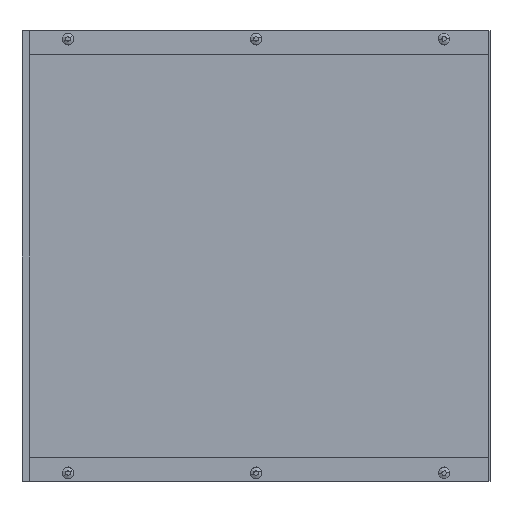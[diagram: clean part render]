
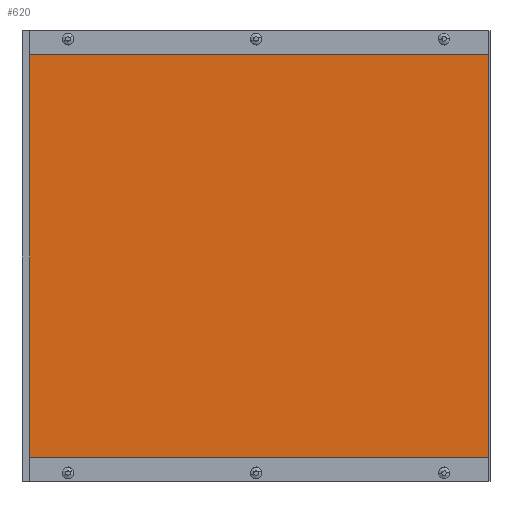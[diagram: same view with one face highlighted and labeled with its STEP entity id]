
A CAD part, front view. The second image highlights one B-rep face of the part: STEP entity #620.
In plain terms, the highlighted planar face has unit normal (0, -1, 0).
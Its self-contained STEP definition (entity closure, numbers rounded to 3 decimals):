
#74 = VERTEX_POINT ( 'NONE', #4194 ) ;
#154 = ORIENTED_EDGE ( 'NONE', *, *, #4608, .F. ) ;
#279 = VERTEX_POINT ( 'NONE', #2432 ) ;
#495 = VERTEX_POINT ( 'NONE', #3776 ) ;
#591 = DIRECTION ( 'NONE',  ( 0., 1., 0. ) ) ;
#620 = ADVANCED_FACE ( 'NONE', ( #2406 ), #4213, .F. ) ;
#648 = DIRECTION ( 'NONE',  ( 0., 0., 1. ) ) ;
#785 = DIRECTION ( 'NONE',  ( 0., 0., -1. ) ) ;
#875 = VERTEX_POINT ( 'NONE', #3822 ) ;
#894 = DIRECTION ( 'NONE',  ( 0., 0., 1. ) ) ;
#1051 = CARTESIAN_POINT ( 'NONE',  ( -8., 61.1, 454. ) ) ;
#1174 = EDGE_LOOP ( 'NONE', ( #1991, #4489, #1201, #154 ) ) ;
#1201 = ORIENTED_EDGE ( 'NONE', *, *, #2299, .T. ) ;
#1360 = DIRECTION ( 'NONE',  ( -1., 0., 0. ) ) ;
#1400 = EDGE_CURVE ( 'NONE', #279, #495, #2937, .T. ) ;
#1501 = LINE ( 'NONE', #4084, #3585 ) ;
#1991 = ORIENTED_EDGE ( 'NONE', *, *, #3558, .T. ) ;
#2299 = EDGE_CURVE ( 'NONE', #279, #875, #3767, .T. ) ;
#2406 = FACE_OUTER_BOUND ( 'NONE', #1174, .T. ) ;
#2432 = CARTESIAN_POINT ( 'NONE',  ( -6.6, 61.1, 454. ) ) ;
#2937 = LINE ( 'NONE', #1051, #3489 ) ;
#3137 = CARTESIAN_POINT ( 'NONE',  ( -8., 61.1, 25. ) ) ;
#3489 = VECTOR ( 'NONE', #4668, 1000. ) ;
#3522 = LINE ( 'NONE', #3137, #4348 ) ;
#3558 = EDGE_CURVE ( 'NONE', #74, #495, #1501, .T. ) ;
#3585 = VECTOR ( 'NONE', #894, 1000. ) ;
#3767 = LINE ( 'NONE', #4040, #4658 ) ;
#3776 = CARTESIAN_POINT ( 'NONE',  ( 488.6, 61.1, 454. ) ) ;
#3822 = CARTESIAN_POINT ( 'NONE',  ( -6.6, 61.1, 25. ) ) ;
#3857 = CARTESIAN_POINT ( 'NONE',  ( -8., 61.1, 479. ) ) ;
#4025 = AXIS2_PLACEMENT_3D ( 'NONE', #3857, #591, #648 ) ;
#4040 = CARTESIAN_POINT ( 'NONE',  ( -6.6, 61.1, 479. ) ) ;
#4084 = CARTESIAN_POINT ( 'NONE',  ( 488.6, 61.1, 479. ) ) ;
#4194 = CARTESIAN_POINT ( 'NONE',  ( 488.6, 61.1, 25. ) ) ;
#4213 = PLANE ( 'NONE',  #4025 ) ;
#4348 = VECTOR ( 'NONE', #1360, 1000. ) ;
#4489 = ORIENTED_EDGE ( 'NONE', *, *, #1400, .F. ) ;
#4608 = EDGE_CURVE ( 'NONE', #74, #875, #3522, .T. ) ;
#4658 = VECTOR ( 'NONE', #785, 1000. ) ;
#4668 = DIRECTION ( 'NONE',  ( 1., 0., 0. ) ) ;
